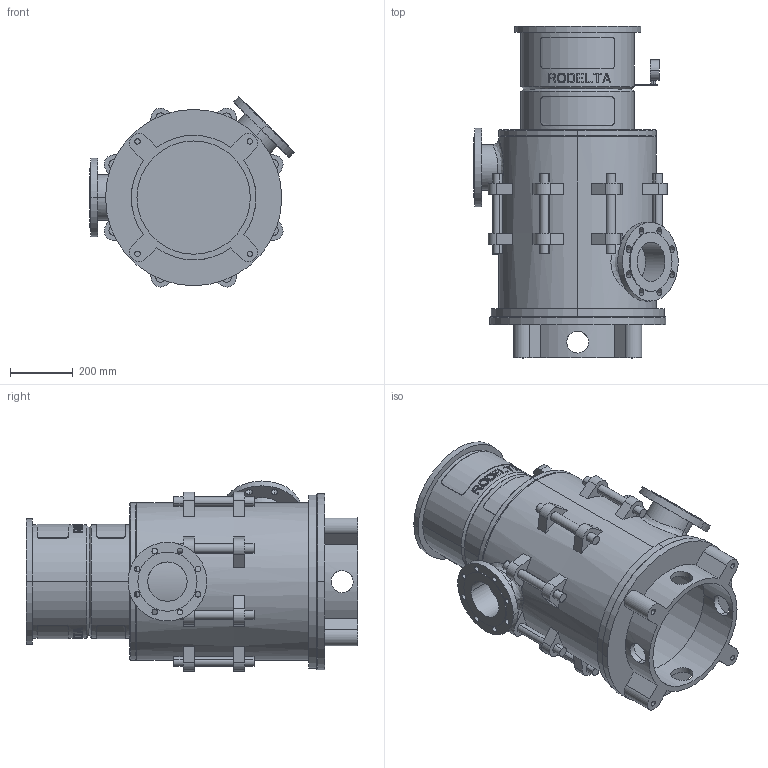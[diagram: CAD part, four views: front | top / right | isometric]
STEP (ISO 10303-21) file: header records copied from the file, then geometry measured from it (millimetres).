
FILE_DESCRIPTION((''),'2;1');
FILE_NAME('LS5_2TR_0GR_TOT_30KW','2023-08-08T',('Lyritlocal'),(''),'PRO/ENGINEER BY PARAMETRIC TECHNOLOGY CORPORATION, 2016360','PRO/ENGINEER BY PARAMETRIC TECHNOLOGY CORPORATION, 2016360','');
FILE_SCHEMA(('CONFIG_CONTROL_DESIGN'));
Length unit declared in the file: millimetre
Products named in the file (1): LS5_2TR_0GR_TOT_30KW
Bounding box: 649.61 x 1054 x 603.65 mm (x, y, z)
Volume: 32300238.9 mm3; surface area: 4434262.9 mm2
Topology: 3 solids, 7 shells, 672 faces, 1747 edges, 1158 vertices
Faces by surface type: plane 414, cylinder 242, cone 12, bspline 4
Entity records: 21954 total; most frequent: CARTESIAN_POINT 5510, ORIENTED_EDGE 3478, DIRECTION 3269, EDGE_CURVE 1747, AXIS2_PLACEMENT_3D 1241, VERTEX_POINT 1158, EDGE_LOOP 809, VECTOR 787
